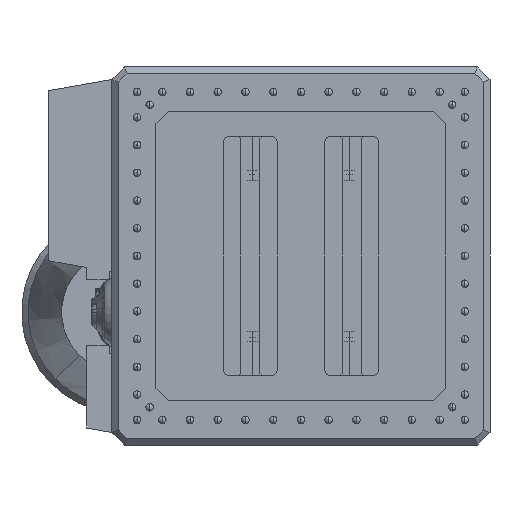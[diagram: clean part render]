
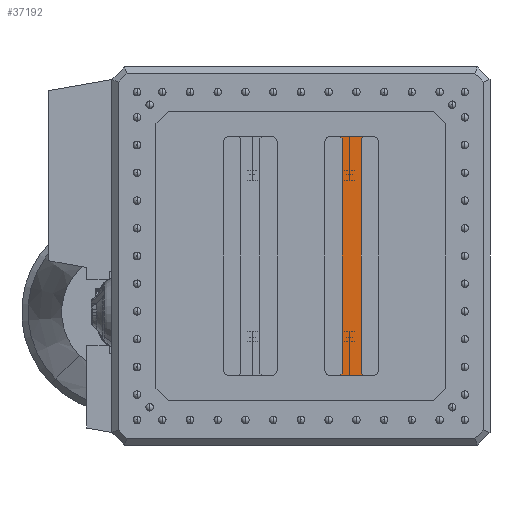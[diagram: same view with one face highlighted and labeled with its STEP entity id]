
A CAD part, front view. The second image highlights one B-rep face of the part: STEP entity #37192.
In plain terms, the highlighted planar face has unit normal (0, -1, 0).
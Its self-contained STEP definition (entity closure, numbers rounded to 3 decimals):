
#243 = VECTOR ( 'NONE', #44526, 1000. ) ;
#2364 = VERTEX_POINT ( 'NONE', #62521 ) ;
#2794 = CARTESIAN_POINT ( 'NONE',  ( -57.062, -7.105, 23.94 ) ) ;
#3882 = CARTESIAN_POINT ( 'NONE',  ( -55.362, -7.105, 4.94 ) ) ;
#6233 = EDGE_LOOP ( 'NONE', ( #103284, #70380, #71455, #33289, #90335, #84589, #66696, #39729 ) ) ;
#6486 = EDGE_CURVE ( 'NONE', #98949, #43716, #105885, .T. ) ;
#7358 = EDGE_CURVE ( 'NONE', #107181, #2364, #97506, .T. ) ;
#9100 = DIRECTION ( 'NONE',  ( 0.707, 0., 0.707 ) ) ;
#10379 = CARTESIAN_POINT ( 'NONE',  ( -55.562, -7.105, 23.94 ) ) ;
#10664 = CARTESIAN_POINT ( 'NONE',  ( -55.562, -7.105, 23.94 ) ) ;
#14299 = VECTOR ( 'NONE', #29042, 1000. ) ;
#14879 = CARTESIAN_POINT ( 'NONE',  ( -57.062, -7.105, 23.74 ) ) ;
#19500 = CARTESIAN_POINT ( 'NONE',  ( -57.062, -7.105, 23.74 ) ) ;
#20148 = LINE ( 'NONE', #10379, #43875 ) ;
#20176 = DIRECTION ( 'NONE',  ( 0., 0., -1. ) ) ;
#20198 = VERTEX_POINT ( 'NONE', #14879 ) ;
#21784 = PLANE ( 'NONE',  #67928 ) ;
#22502 = CARTESIAN_POINT ( 'NONE',  ( -57.262, -7.105, 4.94 ) ) ;
#24612 = VERTEX_POINT ( 'NONE', #95804 ) ;
#25547 = VECTOR ( 'NONE', #103053, 1000. ) ;
#26197 = LINE ( 'NONE', #2794, #62648 ) ;
#26402 = VECTOR ( 'NONE', #80375, 1000. ) ;
#29042 = DIRECTION ( 'NONE',  ( -0.707, 0., -0.707 ) ) ;
#30487 = CARTESIAN_POINT ( 'NONE',  ( -41.049, -7.105, 17.19 ) ) ;
#33280 = DIRECTION ( 'NONE',  ( 1., 0., 0. ) ) ;
#33289 = ORIENTED_EDGE ( 'NONE', *, *, #7358, .T. ) ;
#36944 = EDGE_CURVE ( 'NONE', #2364, #98949, #58809, .T. ) ;
#37192 = ADVANCED_FACE ( 'NONE', ( #45724 ), #21784, .T. ) ;
#39729 = ORIENTED_EDGE ( 'NONE', *, *, #54822, .T. ) ;
#42007 = CARTESIAN_POINT ( 'NONE',  ( -57.062, -7.105, 5.14 ) ) ;
#43716 = VERTEX_POINT ( 'NONE', #104291 ) ;
#43875 = VECTOR ( 'NONE', #102745, 1000. ) ;
#44526 = DIRECTION ( 'NONE',  ( 0.707, 0., -0.707 ) ) ;
#45724 = FACE_OUTER_BOUND ( 'NONE', #6233, .T. ) ;
#46140 = CARTESIAN_POINT ( 'NONE',  ( -55.562, -7.105, 5.14 ) ) ;
#46949 = VECTOR ( 'NONE', #9100, 1000. ) ;
#48787 = EDGE_CURVE ( 'NONE', #43716, #101935, #62285, .T. ) ;
#52524 = CARTESIAN_POINT ( 'NONE',  ( -55.362, -7.105, 23.94 ) ) ;
#54822 = EDGE_CURVE ( 'NONE', #101935, #88431, #85698, .T. ) ;
#54937 = DIRECTION ( 'NONE',  ( 0., -1., 0. ) ) ;
#58809 = LINE ( 'NONE', #91947, #78341 ) ;
#59593 = EDGE_CURVE ( 'NONE', #20198, #107181, #26197, .T. ) ;
#60095 = EDGE_CURVE ( 'NONE', #24612, #20198, #68969, .T. ) ;
#62257 = EDGE_CURVE ( 'NONE', #88431, #24612, #20148, .T. ) ;
#62285 = LINE ( 'NONE', #10664, #25547 ) ;
#62521 = CARTESIAN_POINT ( 'NONE',  ( -57.262, -7.105, 4.94 ) ) ;
#62648 = VECTOR ( 'NONE', #20176, 1000. ) ;
#63637 = DIRECTION ( 'NONE',  ( 1., 0., 0. ) ) ;
#66696 = ORIENTED_EDGE ( 'NONE', *, *, #48787, .T. ) ;
#67928 = AXIS2_PLACEMENT_3D ( 'NONE', #30487, #54937, #63637 ) ;
#68969 = LINE ( 'NONE', #19500, #243 ) ;
#70380 = ORIENTED_EDGE ( 'NONE', *, *, #60095, .T. ) ;
#71455 = ORIENTED_EDGE ( 'NONE', *, *, #59593, .T. ) ;
#78341 = VECTOR ( 'NONE', #33280, 1000. ) ;
#80375 = DIRECTION ( 'NONE',  ( -0.707, 0., 0.707 ) ) ;
#84589 = ORIENTED_EDGE ( 'NONE', *, *, #6486, .T. ) ;
#85698 = LINE ( 'NONE', #52524, #46949 ) ;
#86280 = CARTESIAN_POINT ( 'NONE',  ( -55.362, -7.105, 23.94 ) ) ;
#88431 = VERTEX_POINT ( 'NONE', #86280 ) ;
#90335 = ORIENTED_EDGE ( 'NONE', *, *, #36944, .T. ) ;
#91947 = CARTESIAN_POINT ( 'NONE',  ( -55.562, -7.105, 4.94 ) ) ;
#95804 = CARTESIAN_POINT ( 'NONE',  ( -57.262, -7.105, 23.94 ) ) ;
#97506 = LINE ( 'NONE', #22502, #14299 ) ;
#98949 = VERTEX_POINT ( 'NONE', #3882 ) ;
#101935 = VERTEX_POINT ( 'NONE', #103108 ) ;
#102745 = DIRECTION ( 'NONE',  ( -1., 0., 0. ) ) ;
#103053 = DIRECTION ( 'NONE',  ( 0., 0., 1. ) ) ;
#103108 = CARTESIAN_POINT ( 'NONE',  ( -55.562, -7.105, 23.74 ) ) ;
#103284 = ORIENTED_EDGE ( 'NONE', *, *, #62257, .T. ) ;
#104291 = CARTESIAN_POINT ( 'NONE',  ( -55.562, -7.105, 5.14 ) ) ;
#105885 = LINE ( 'NONE', #46140, #26402 ) ;
#107181 = VERTEX_POINT ( 'NONE', #42007 ) ;
